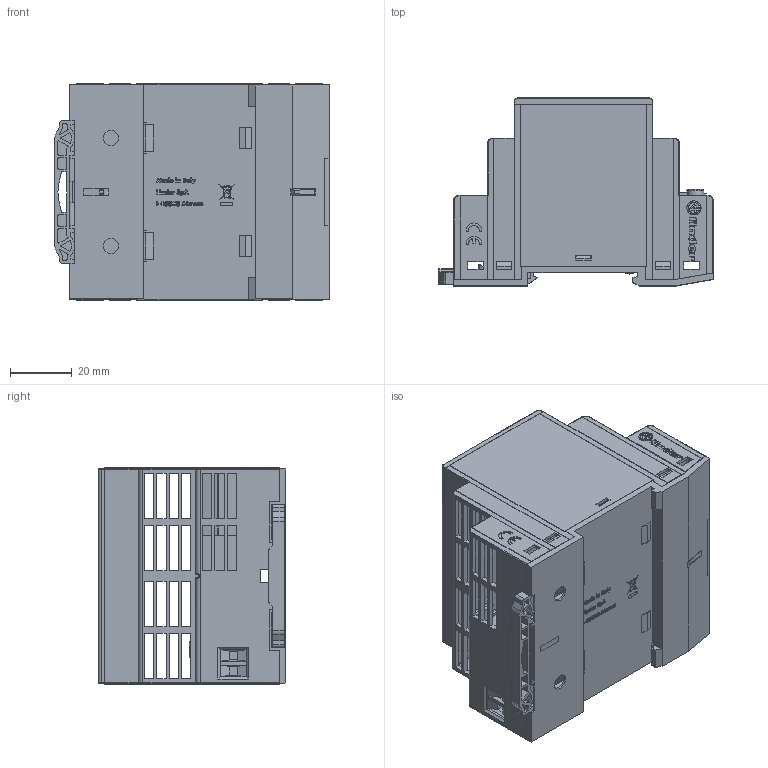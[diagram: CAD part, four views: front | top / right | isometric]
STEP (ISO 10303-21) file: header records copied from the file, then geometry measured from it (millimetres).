
FILE_DESCRIPTION(/* description */ ('Unknown'),/* implementation_level */ '2;1');
FILE_NAME(/* name */ '7850 new',/* time_stamp */ '2022-06-23T10:41:27+02:00',/* author */ ('Unknown'),/* organization */ ('Unknown'),/* preprocessor_version */ 'ST-DEVELOPER v16.7',/* originating_system */ 'DEX',/* authorisation */ $);
FILE_SCHEMA (('AUTOMOTIVE_DESIGN {1 0 10303 214 3 1 1}'));
Length unit declared in the file: millimetre
Products named in the file (1): 7850 new
Bounding box: 88.85 x 60.8 x 70 mm (x, y, z)
Surface area: 45890.4 mm2 (no closed solid volume)
Topology: 0 solids, 50 shells, 1602 faces, 4843 edges, 3373 vertices
Faces by surface type: plane 1290, cylinder 200, bspline 96, torus 9, cone 6, sphere 1
Full cylindrical faces by diameter (mm): 0.252 x1, 0.374 x2, 2.2 x1, 2.6 x6, 2.85 x6, 3 x4, 3.8 x6, 4.8 x1, 5 x2, 5.6 x1
Entity records: 56986 total; most frequent: CARTESIAN_POINT 14203, ORIENTED_EDGE 8403, DIRECTION 8030, EDGE_CURVE 4766, LINE 4038, VECTOR 4038, VERTEX_POINT 3348, AXIS2_PLACEMENT_3D 1996
